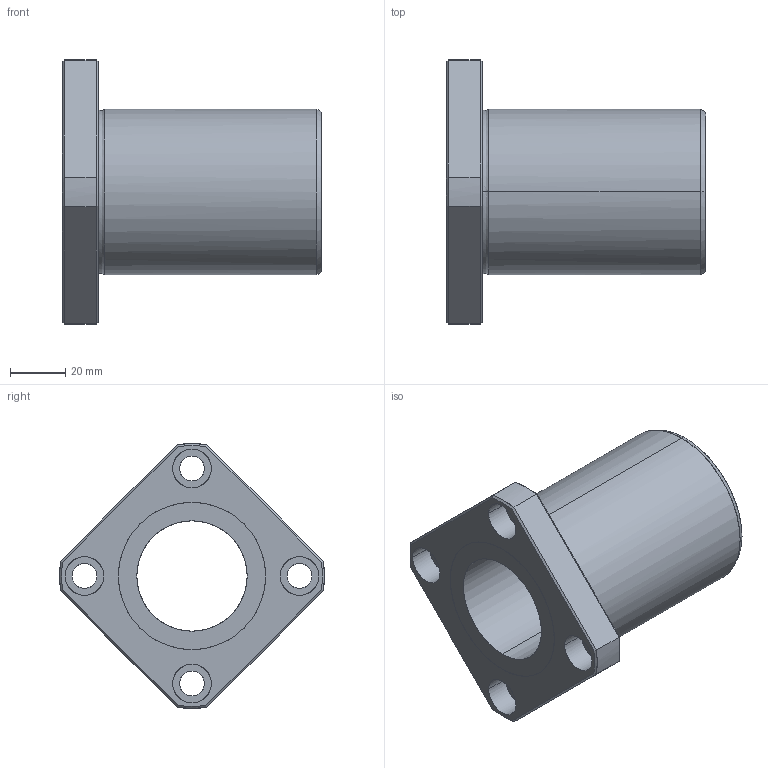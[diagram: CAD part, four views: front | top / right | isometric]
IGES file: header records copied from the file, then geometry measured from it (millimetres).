
Global section: file name: No Iges File Name specified; native system: AutoDesk Inventor R11.0; preprocessor: AutoDesk Inventor Iges Exporter R11.0; author: No Author specified; organization: No Organization specified; date: 20170921.115900; units: millimetre
Bounding box: 94 x 95.99 x 96 mm (x, y, z)
Surface area: 40498.8 mm2 (no closed solid volume)
Topology: 0 solids, 0 shells, 62 faces, 380 edges, 380 vertices
Faces by surface type: bspline 62
